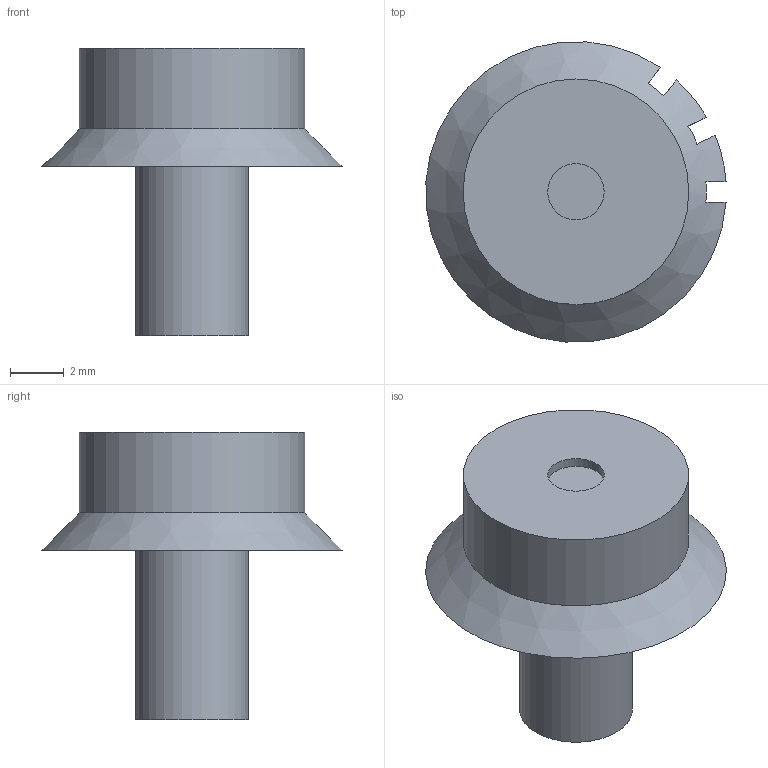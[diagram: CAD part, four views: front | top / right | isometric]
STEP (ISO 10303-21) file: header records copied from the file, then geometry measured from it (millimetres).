
FILE_DESCRIPTION(('Open CASCADE Model'),'2;1');
FILE_NAME('Open CASCADE Shape Model','2026-09-26T12:51:09',('Author'),( 'Open CASCADE'),'Open CASCADE STEP processor 7.8','Open CASCADE 7.8' ,'Unknown');
FILE_SCHEMA(('AUTOMOTIVE_DESIGN { 1 0 10303 214 1 1 1 1 }'));
Length unit declared in the file: millimetre
Products named in the file (1): Open CASCADE STEP translator 7.8 5
Bounding box: 11.17 x 11.17 x 10.7 mm (x, y, z)
Volume: 357.8 mm3; surface area: 379.2 mm2
Topology: 1 solids, 1 shells, 20 faces, 47 edges, 31 vertices
Faces by surface type: plane 16, cylinder 3, cone 1
Full cylindrical faces by diameter (mm): 2.1 x1, 4.2 x1, 8.4 x1
Entity records: 1224 total; most frequent: CARTESIAN_POINT 238, DIRECTION 191, LINE 95, VECTOR 95, ORIENTED_EDGE 94, PCURVE 94, DEFINITIONAL_REPRESENTATION 94, EDGE_CURVE 47
